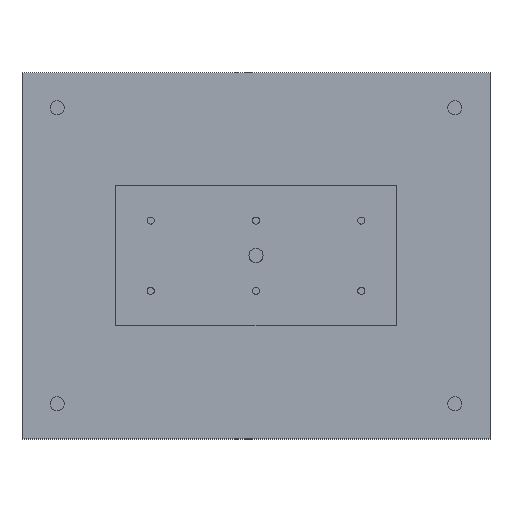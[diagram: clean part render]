
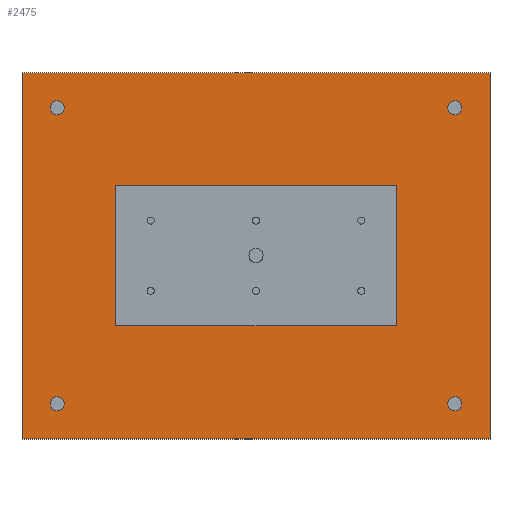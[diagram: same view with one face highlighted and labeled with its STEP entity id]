
A CAD part, top view. The second image highlights one B-rep face of the part: STEP entity #2475.
In plain terms, the highlighted planar face has unit normal (0, 0, 1).
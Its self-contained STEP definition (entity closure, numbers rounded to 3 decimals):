
#48=FACE_BOUND('',#516,.T.);
#49=FACE_BOUND('',#517,.T.);
#50=FACE_BOUND('',#518,.T.);
#51=FACE_BOUND('',#519,.T.);
#52=FACE_BOUND('',#520,.T.);
#53=FACE_BOUND('',#521,.T.);
#54=FACE_BOUND('',#522,.T.);
#55=FACE_BOUND('',#523,.T.);
#56=FACE_BOUND('',#524,.T.);
#57=FACE_BOUND('',#525,.T.);
#58=FACE_BOUND('',#526,.T.);
#219=PLANE('',#3018);
#340=FACE_OUTER_BOUND('',#515,.T.);
#515=EDGE_LOOP('',(#2093,#2094,#2095,#2096));
#516=EDGE_LOOP('',(#2097));
#517=EDGE_LOOP('',(#2098));
#518=EDGE_LOOP('',(#2099,#2100,#2101,#2102,#2103,#2104));
#519=EDGE_LOOP('',(#2105));
#520=EDGE_LOOP('',(#2106));
#521=EDGE_LOOP('',(#2107));
#522=EDGE_LOOP('',(#2108));
#523=EDGE_LOOP('',(#2109));
#524=EDGE_LOOP('',(#2110));
#525=EDGE_LOOP('',(#2111));
#526=EDGE_LOOP('',(#2112));
#732=LINE('',#4341,#943);
#735=LINE('',#4347,#946);
#738=LINE('',#4353,#949);
#741=LINE('',#4359,#952);
#744=LINE('',#4365,#955);
#747=LINE('',#4369,#958);
#752=LINE('',#4389,#963);
#755=LINE('',#4395,#966);
#758=LINE('',#4401,#969);
#761=LINE('',#4405,#972);
#943=VECTOR('',#3599,10.);
#946=VECTOR('',#3604,10.);
#949=VECTOR('',#3609,10.);
#952=VECTOR('',#3614,10.);
#955=VECTOR('',#3619,10.);
#958=VECTOR('',#3624,10.);
#963=VECTOR('',#3643,10.);
#966=VECTOR('',#3648,10.);
#969=VECTOR('',#3653,10.);
#972=VECTOR('',#3658,10.);
#1088=CIRCLE('',#2979,6.);
#1090=CIRCLE('',#2982,6.);
#1092=CIRCLE('',#2985,6.);
#1094=CIRCLE('',#2988,6.);
#1096=CIRCLE('',#2991,3.05);
#1098=CIRCLE('',#2994,3.05);
#1100=CIRCLE('',#2997,3.05);
#1102=CIRCLE('',#3000,3.05);
#1104=CIRCLE('',#3009,3.05);
#1106=CIRCLE('',#3012,3.05);
#1254=VERTEX_POINT('',#4287);
#1256=VERTEX_POINT('',#4293);
#1258=VERTEX_POINT('',#4299);
#1260=VERTEX_POINT('',#4305);
#1262=VERTEX_POINT('',#4311);
#1264=VERTEX_POINT('',#4317);
#1266=VERTEX_POINT('',#4323);
#1268=VERTEX_POINT('',#4329);
#1272=VERTEX_POINT('',#4338);
#1273=VERTEX_POINT('',#4340);
#1275=VERTEX_POINT('',#4346);
#1277=VERTEX_POINT('',#4352);
#1279=VERTEX_POINT('',#4358);
#1281=VERTEX_POINT('',#4364);
#1282=VERTEX_POINT('',#4371);
#1284=VERTEX_POINT('',#4377);
#1288=VERTEX_POINT('',#4386);
#1289=VERTEX_POINT('',#4388);
#1291=VERTEX_POINT('',#4394);
#1293=VERTEX_POINT('',#4400);
#1524=EDGE_CURVE('',#1254,#1254,#1088,.T.);
#1527=EDGE_CURVE('',#1256,#1256,#1090,.T.);
#1530=EDGE_CURVE('',#1258,#1258,#1092,.T.);
#1533=EDGE_CURVE('',#1260,#1260,#1094,.T.);
#1536=EDGE_CURVE('',#1262,#1262,#1096,.T.);
#1539=EDGE_CURVE('',#1264,#1264,#1098,.T.);
#1542=EDGE_CURVE('',#1266,#1266,#1100,.T.);
#1545=EDGE_CURVE('',#1268,#1268,#1102,.T.);
#1550=EDGE_CURVE('',#1273,#1272,#732,.T.);
#1553=EDGE_CURVE('',#1275,#1273,#735,.T.);
#1556=EDGE_CURVE('',#1277,#1275,#738,.T.);
#1559=EDGE_CURVE('',#1279,#1277,#741,.T.);
#1562=EDGE_CURVE('',#1281,#1279,#744,.T.);
#1565=EDGE_CURVE('',#1272,#1281,#747,.T.);
#1566=EDGE_CURVE('',#1282,#1282,#1104,.T.);
#1569=EDGE_CURVE('',#1284,#1284,#1106,.T.);
#1574=EDGE_CURVE('',#1289,#1288,#752,.T.);
#1577=EDGE_CURVE('',#1291,#1289,#755,.T.);
#1580=EDGE_CURVE('',#1293,#1291,#758,.T.);
#1583=EDGE_CURVE('',#1288,#1293,#761,.T.);
#2093=ORIENTED_EDGE('',*,*,#1583,.T.);
#2094=ORIENTED_EDGE('',*,*,#1580,.T.);
#2095=ORIENTED_EDGE('',*,*,#1577,.T.);
#2096=ORIENTED_EDGE('',*,*,#1574,.T.);
#2097=ORIENTED_EDGE('',*,*,#1569,.T.);
#2098=ORIENTED_EDGE('',*,*,#1566,.T.);
#2099=ORIENTED_EDGE('',*,*,#1565,.T.);
#2100=ORIENTED_EDGE('',*,*,#1562,.T.);
#2101=ORIENTED_EDGE('',*,*,#1559,.T.);
#2102=ORIENTED_EDGE('',*,*,#1556,.T.);
#2103=ORIENTED_EDGE('',*,*,#1553,.T.);
#2104=ORIENTED_EDGE('',*,*,#1550,.T.);
#2105=ORIENTED_EDGE('',*,*,#1545,.T.);
#2106=ORIENTED_EDGE('',*,*,#1542,.T.);
#2107=ORIENTED_EDGE('',*,*,#1539,.T.);
#2108=ORIENTED_EDGE('',*,*,#1536,.T.);
#2109=ORIENTED_EDGE('',*,*,#1533,.T.);
#2110=ORIENTED_EDGE('',*,*,#1530,.T.);
#2111=ORIENTED_EDGE('',*,*,#1527,.T.);
#2112=ORIENTED_EDGE('',*,*,#1524,.T.);
#2475=ADVANCED_FACE('',(#340,#48,#49,#50,#51,#52,#53,#54,#55,#56,#57,#58),
#219,.T.);
#2979=AXIS2_PLACEMENT_3D('',#4288,#3541,#3542);
#2982=AXIS2_PLACEMENT_3D('',#4294,#3548,#3549);
#2985=AXIS2_PLACEMENT_3D('',#4300,#3555,#3556);
#2988=AXIS2_PLACEMENT_3D('',#4306,#3562,#3563);
#2991=AXIS2_PLACEMENT_3D('',#4312,#3569,#3570);
#2994=AXIS2_PLACEMENT_3D('',#4318,#3576,#3577);
#2997=AXIS2_PLACEMENT_3D('',#4324,#3583,#3584);
#3000=AXIS2_PLACEMENT_3D('',#4330,#3590,#3591);
#3009=AXIS2_PLACEMENT_3D('',#4372,#3627,#3628);
#3012=AXIS2_PLACEMENT_3D('',#4378,#3634,#3635);
#3018=AXIS2_PLACEMENT_3D('',#4406,#3659,#3660);
#3541=DIRECTION('center_axis',(0.,0.,-1.));
#3542=DIRECTION('ref_axis',(1.,0.,0.));
#3548=DIRECTION('center_axis',(0.,0.,-1.));
#3549=DIRECTION('ref_axis',(1.,0.,0.));
#3555=DIRECTION('center_axis',(0.,0.,-1.));
#3556=DIRECTION('ref_axis',(1.,0.,0.));
#3562=DIRECTION('center_axis',(0.,0.,-1.));
#3563=DIRECTION('ref_axis',(1.,0.,0.));
#3569=DIRECTION('center_axis',(0.,0.,-1.));
#3570=DIRECTION('ref_axis',(1.,0.,0.));
#3576=DIRECTION('center_axis',(0.,0.,-1.));
#3577=DIRECTION('ref_axis',(1.,0.,0.));
#3583=DIRECTION('center_axis',(0.,0.,-1.));
#3584=DIRECTION('ref_axis',(1.,0.,0.));
#3590=DIRECTION('center_axis',(0.,0.,-1.));
#3591=DIRECTION('ref_axis',(1.,0.,0.));
#3599=DIRECTION('',(-0.5,-0.866,0.));
#3604=DIRECTION('',(0.5,-0.866,0.));
#3609=DIRECTION('',(1.,0.,0.));
#3614=DIRECTION('',(0.5,0.866,0.));
#3619=DIRECTION('',(-0.5,0.866,0.));
#3624=DIRECTION('',(-1.,0.,0.));
#3627=DIRECTION('center_axis',(0.,0.,-1.));
#3628=DIRECTION('ref_axis',(1.,0.,0.));
#3634=DIRECTION('center_axis',(0.,0.,-1.));
#3635=DIRECTION('ref_axis',(1.,0.,0.));
#3643=DIRECTION('',(-1.,0.,0.));
#3648=DIRECTION('',(0.,1.,0.));
#3653=DIRECTION('',(1.,0.,0.));
#3658=DIRECTION('',(0.,-1.,0.));
#3659=DIRECTION('center_axis',(0.,0.,1.));
#3660=DIRECTION('ref_axis',(1.,0.,0.));
#4287=CARTESIAN_POINT('',(24.,-1071.907,266.));
#4288=CARTESIAN_POINT('Origin',(30.,-1071.907,266.));
#4293=CARTESIAN_POINT('',(24.,-818.907,266.));
#4294=CARTESIAN_POINT('Origin',(30.,-818.907,266.));
#4299=CARTESIAN_POINT('',(364.,-818.907,266.));
#4300=CARTESIAN_POINT('Origin',(370.,-818.907,266.));
#4305=CARTESIAN_POINT('',(364.,-1071.907,266.));
#4306=CARTESIAN_POINT('Origin',(370.,-1071.907,266.));
#4311=CARTESIAN_POINT('',(286.95,-915.407,266.));
#4312=CARTESIAN_POINT('Origin',(290.,-915.407,266.));
#4317=CARTESIAN_POINT('',(196.95,-915.407,266.));
#4318=CARTESIAN_POINT('Origin',(200.,-915.407,266.));
#4323=CARTESIAN_POINT('',(106.95,-915.407,266.));
#4324=CARTESIAN_POINT('Origin',(110.,-915.407,266.));
#4329=CARTESIAN_POINT('',(286.95,-975.407,266.));
#4330=CARTESIAN_POINT('Origin',(290.,-975.407,266.));
#4338=CARTESIAN_POINT('',(206.149,-956.057,266.));
#4340=CARTESIAN_POINT('',(212.298,-945.407,266.));
#4341=CARTESIAN_POINT('',(206.149,-956.057,266.));
#4346=CARTESIAN_POINT('',(206.149,-934.757,266.));
#4347=CARTESIAN_POINT('',(212.298,-945.407,266.));
#4352=CARTESIAN_POINT('',(193.851,-934.757,266.));
#4353=CARTESIAN_POINT('',(206.149,-934.757,266.));
#4358=CARTESIAN_POINT('',(187.702,-945.407,266.));
#4359=CARTESIAN_POINT('',(193.851,-934.757,266.));
#4364=CARTESIAN_POINT('',(193.851,-956.057,266.));
#4365=CARTESIAN_POINT('',(187.702,-945.407,266.));
#4369=CARTESIAN_POINT('',(193.851,-956.057,266.));
#4371=CARTESIAN_POINT('',(106.95,-975.407,266.));
#4372=CARTESIAN_POINT('Origin',(110.,-975.407,266.));
#4377=CARTESIAN_POINT('',(196.95,-975.407,266.));
#4378=CARTESIAN_POINT('Origin',(200.,-975.407,266.));
#4386=CARTESIAN_POINT('',(0.,-788.907,266.));
#4388=CARTESIAN_POINT('',(400.,-788.907,266.));
#4389=CARTESIAN_POINT('',(400.,-788.907,266.));
#4394=CARTESIAN_POINT('',(400.,-1101.907,266.));
#4395=CARTESIAN_POINT('',(400.,-1101.907,266.));
#4400=CARTESIAN_POINT('',(0.,-1101.907,266.));
#4401=CARTESIAN_POINT('',(0.,-1101.907,266.));
#4405=CARTESIAN_POINT('',(0.,-788.907,266.));
#4406=CARTESIAN_POINT('Origin',(200.,-945.407,266.));
